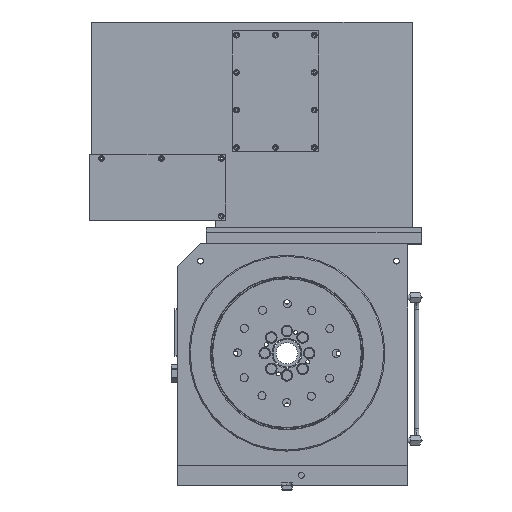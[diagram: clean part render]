
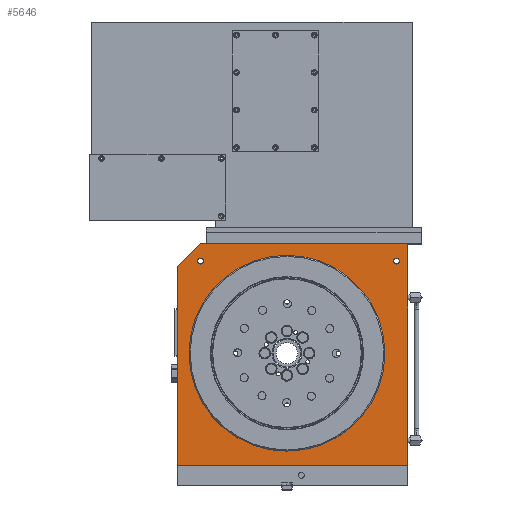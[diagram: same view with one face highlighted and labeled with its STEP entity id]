
A CAD part, top view. The second image highlights one B-rep face of the part: STEP entity #5646.
In plain terms, the highlighted planar face has unit normal (0, 0, 1).
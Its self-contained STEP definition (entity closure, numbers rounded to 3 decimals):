
#108 = CIRCLE ( 'NONE', #13304, 5.15 ) ;
#139 = ORIENTED_EDGE ( 'NONE', *, *, #12843, .F. ) ;
#437 = EDGE_LOOP ( 'NONE', ( #2668, #8659, #3723, #16835, #5592 ) ) ;
#655 = CIRCLE ( 'NONE', #15543, 126. ) ;
#766 = EDGE_LOOP ( 'NONE', ( #20275, #8968 ) ) ;
#951 = AXIS2_PLACEMENT_3D ( 'NONE', #1056, #25382, #23254 ) ;
#1041 = DIRECTION ( 'NONE',  ( 0., 0., 1. ) ) ;
#1056 = CARTESIAN_POINT ( 'NONE',  ( 190., 160., 265. ) ) ;
#1451 = DIRECTION ( 'NONE',  ( 0., 1., 0. ) ) ;
#1538 = DIRECTION ( 'NONE',  ( -1., 0., 0. ) ) ;
#1641 = CARTESIAN_POINT ( 'NONE',  ( 126., 0., 265. ) ) ;
#1862 = VECTOR ( 'NONE', #1451, 1000. ) ;
#1949 = EDGE_CURVE ( 'NONE', #24821, #4294, #6683, .T. ) ;
#2149 = VECTOR ( 'NONE', #14594, 1000. ) ;
#2535 = EDGE_CURVE ( 'NONE', #10001, #12303, #17295, .T. ) ;
#2573 = CARTESIAN_POINT ( 'NONE',  ( -190., -230., 265. ) ) ;
#2637 = EDGE_LOOP ( 'NONE', ( #22418, #7379 ) ) ;
#2668 = ORIENTED_EDGE ( 'NONE', *, *, #26247, .T. ) ;
#2914 = EDGE_CURVE ( 'NONE', #21776, #5518, #12239, .T. ) ;
#2976 = FACE_OUTER_BOUND ( 'NONE', #437, .T. ) ;
#3114 = VERTEX_POINT ( 'NONE', #13222 ) ;
#3268 = DIRECTION ( 'NONE',  ( 0., 0., -1. ) ) ;
#3296 = CARTESIAN_POINT ( 'NONE',  ( -150., 160., 265. ) ) ;
#3304 = AXIS2_PLACEMENT_3D ( 'NONE', #18026, #13914, #25357 ) ;
#3723 = ORIENTED_EDGE ( 'NONE', *, *, #15607, .T. ) ;
#3921 = CIRCLE ( 'NONE', #951, 5.15 ) ;
#4187 = EDGE_CURVE ( 'NONE', #3114, #15503, #108, .T. ) ;
#4276 = VERTEX_POINT ( 'NONE', #15811 ) ;
#4294 = VERTEX_POINT ( 'NONE', #16194 ) ;
#5183 = CARTESIAN_POINT ( 'NONE',  ( -190., 150., 265. ) ) ;
#5204 = CIRCLE ( 'NONE', #20909, 5.15 ) ;
#5518 = VERTEX_POINT ( 'NONE', #24165 ) ;
#5592 = ORIENTED_EDGE ( 'NONE', *, *, #16591, .F. ) ;
#5646 = ADVANCED_FACE ( 'NONE', ( #17612, #19744, #17215, #2976 ), #13625, .T. ) ;
#5806 = DIRECTION ( 'NONE',  ( 0., 0., -1. ) ) ;
#5947 = DIRECTION ( 'NONE',  ( 0., 0., 1. ) ) ;
#6202 = CARTESIAN_POINT ( 'NONE',  ( -150., 190., 265. ) ) ;
#6561 = AXIS2_PLACEMENT_3D ( 'NONE', #13096, #25314, #15224 ) ;
#6683 = LINE ( 'NONE', #2573, #11629 ) ;
#6892 = CARTESIAN_POINT ( 'NONE',  ( 210., 190., 265. ) ) ;
#7379 = ORIENTED_EDGE ( 'NONE', *, *, #18453, .T. ) ;
#7778 = CARTESIAN_POINT ( 'NONE',  ( 0., 0., 265. ) ) ;
#7932 = DIRECTION ( 'NONE',  ( -1., 0., 0. ) ) ;
#8659 = ORIENTED_EDGE ( 'NONE', *, *, #2535, .T. ) ;
#8968 = ORIENTED_EDGE ( 'NONE', *, *, #25099, .F. ) ;
#9682 = LINE ( 'NONE', #11564, #1862 ) ;
#10001 = VERTEX_POINT ( 'NONE', #6892 ) ;
#10179 = LINE ( 'NONE', #6202, #2149 ) ;
#11441 = DIRECTION ( 'NONE',  ( -1., 0., 0. ) ) ;
#11564 = CARTESIAN_POINT ( 'NONE',  ( 210., 190., 265. ) ) ;
#11581 = CARTESIAN_POINT ( 'NONE',  ( -150., 190., 265. ) ) ;
#11629 = VECTOR ( 'NONE', #23301, 1000. ) ;
#11687 = CARTESIAN_POINT ( 'NONE',  ( -190., -195., 265. ) ) ;
#12239 = CIRCLE ( 'NONE', #3304, 5.15 ) ;
#12303 = VERTEX_POINT ( 'NONE', #14415 ) ;
#12483 = DIRECTION ( 'NONE',  ( 1., 0., 0. ) ) ;
#12843 = EDGE_CURVE ( 'NONE', #5518, #21776, #3921, .T. ) ;
#13096 = CARTESIAN_POINT ( 'NONE',  ( 10., -20., 265. ) ) ;
#13222 = CARTESIAN_POINT ( 'NONE',  ( -144.85, 160., 265. ) ) ;
#13304 = AXIS2_PLACEMENT_3D ( 'NONE', #3296, #1041, #19527 ) ;
#13625 = PLANE ( 'NONE',  #6561 ) ;
#13914 = DIRECTION ( 'NONE',  ( 0., 0., 1. ) ) ;
#13980 = AXIS2_PLACEMENT_3D ( 'NONE', #23636, #5806, #21521 ) ;
#14033 = VERTEX_POINT ( 'NONE', #16700 ) ;
#14293 = CARTESIAN_POINT ( 'NONE',  ( 184.85, 160., 265. ) ) ;
#14415 = CARTESIAN_POINT ( 'NONE',  ( -150., 190., 265. ) ) ;
#14594 = DIRECTION ( 'NONE',  ( -0.707, -0.707, 0. ) ) ;
#15224 = DIRECTION ( 'NONE',  ( 1., 0., 0. ) ) ;
#15378 = EDGE_CURVE ( 'NONE', #14033, #20124, #24993, .T. ) ;
#15503 = VERTEX_POINT ( 'NONE', #18698 ) ;
#15543 = AXIS2_PLACEMENT_3D ( 'NONE', #7778, #3268, #1538 ) ;
#15607 = EDGE_CURVE ( 'NONE', #12303, #24821, #10179, .T. ) ;
#15811 = CARTESIAN_POINT ( 'NONE',  ( 210., -195., 265. ) ) ;
#16194 = CARTESIAN_POINT ( 'NONE',  ( -190., -195., 265. ) ) ;
#16591 = EDGE_CURVE ( 'NONE', #4276, #4294, #26158, .T. ) ;
#16700 = CARTESIAN_POINT ( 'NONE',  ( -126., 0., 265. ) ) ;
#16835 = ORIENTED_EDGE ( 'NONE', *, *, #1949, .T. ) ;
#17215 = FACE_BOUND ( 'NONE', #24450, .T. ) ;
#17295 = LINE ( 'NONE', #11581, #21976 ) ;
#17612 = FACE_BOUND ( 'NONE', #2637, .T. ) ;
#18026 = CARTESIAN_POINT ( 'NONE',  ( 190., 160., 265. ) ) ;
#18453 = EDGE_CURVE ( 'NONE', #20124, #14033, #655, .T. ) ;
#18698 = CARTESIAN_POINT ( 'NONE',  ( -155.15, 160., 265. ) ) ;
#19206 = VECTOR ( 'NONE', #7932, 1000. ) ;
#19527 = DIRECTION ( 'NONE',  ( 1., 0., 0. ) ) ;
#19744 = FACE_BOUND ( 'NONE', #766, .T. ) ;
#20060 = CARTESIAN_POINT ( 'NONE',  ( -150., 160., 265. ) ) ;
#20124 = VERTEX_POINT ( 'NONE', #1641 ) ;
#20275 = ORIENTED_EDGE ( 'NONE', *, *, #4187, .F. ) ;
#20909 = AXIS2_PLACEMENT_3D ( 'NONE', #20060, #5947, #12483 ) ;
#21521 = DIRECTION ( 'NONE',  ( -1., 0., 0. ) ) ;
#21776 = VERTEX_POINT ( 'NONE', #14293 ) ;
#21954 = ORIENTED_EDGE ( 'NONE', *, *, #2914, .F. ) ;
#21976 = VECTOR ( 'NONE', #11441, 1000. ) ;
#22418 = ORIENTED_EDGE ( 'NONE', *, *, #15378, .T. ) ;
#23254 = DIRECTION ( 'NONE',  ( 1., 0., 0. ) ) ;
#23301 = DIRECTION ( 'NONE',  ( 0., -1., 0. ) ) ;
#23636 = CARTESIAN_POINT ( 'NONE',  ( 0., 0., 265. ) ) ;
#24165 = CARTESIAN_POINT ( 'NONE',  ( 195.15, 160., 265. ) ) ;
#24450 = EDGE_LOOP ( 'NONE', ( #139, #21954 ) ) ;
#24821 = VERTEX_POINT ( 'NONE', #5183 ) ;
#24993 = CIRCLE ( 'NONE', #13980, 126. ) ;
#25099 = EDGE_CURVE ( 'NONE', #15503, #3114, #5204, .T. ) ;
#25314 = DIRECTION ( 'NONE',  ( 0., 0., 1. ) ) ;
#25357 = DIRECTION ( 'NONE',  ( 1., 0., 0. ) ) ;
#25382 = DIRECTION ( 'NONE',  ( 0., 0., 1. ) ) ;
#26158 = LINE ( 'NONE', #11687, #19206 ) ;
#26247 = EDGE_CURVE ( 'NONE', #4276, #10001, #9682, .T. ) ;
